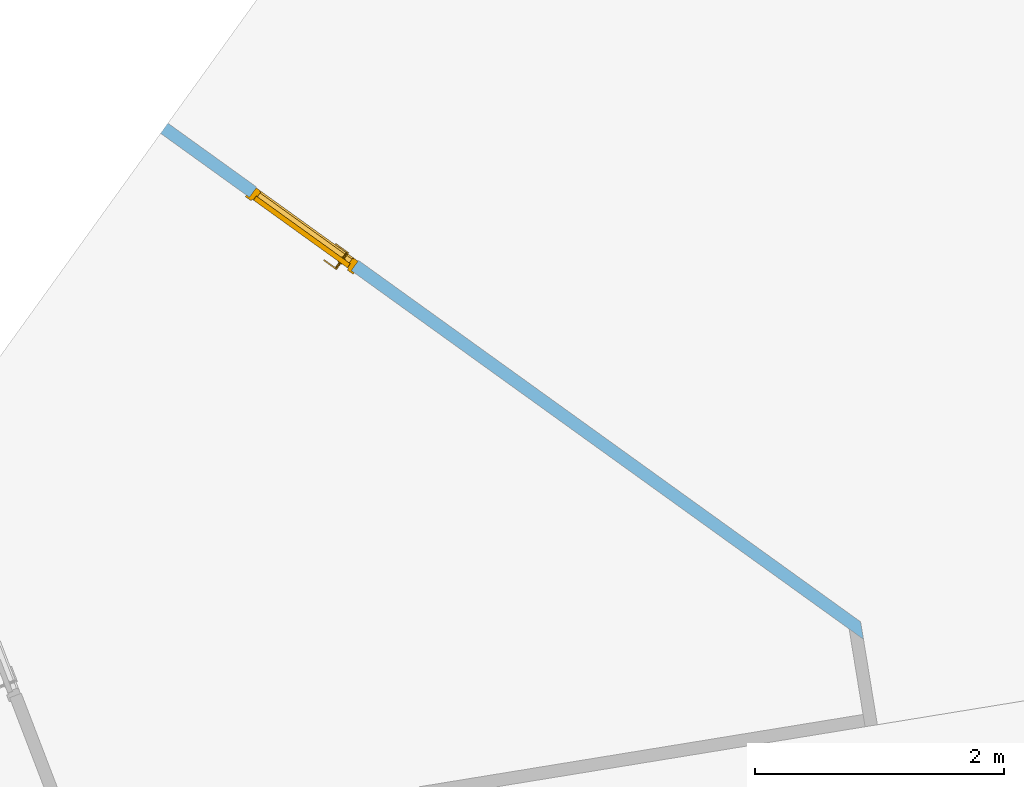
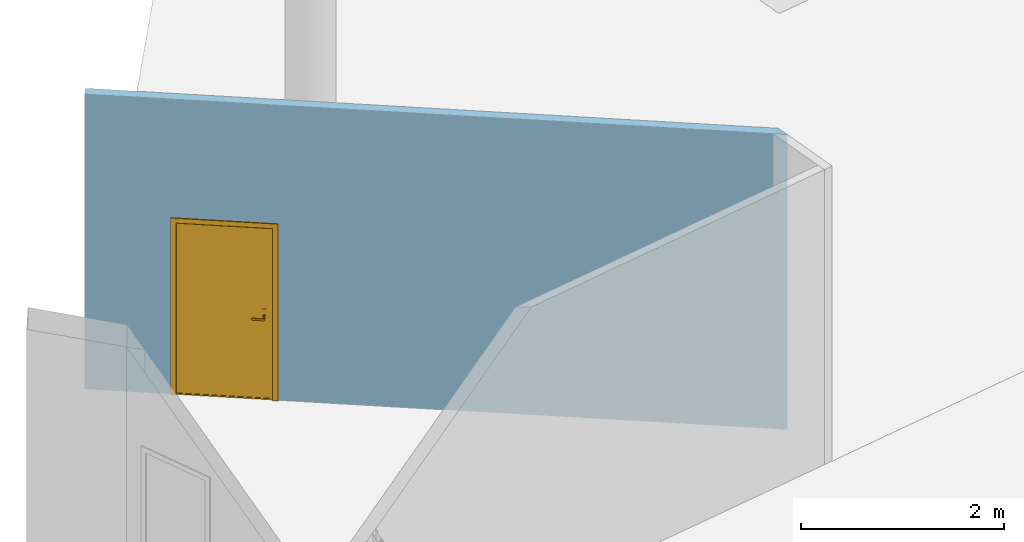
# One storey, part 7 of 10: 1 door, 1 opening, plus 1 element that does not belong to this part.
"""IFC2X3 building model written with IfcOpenShell, lengths in millimetres."""

from ifc_helpers import new_model, entity, si_unit, converted_unit, derived_unit, direction, frame, frame_2d, origin, origin_with_axes, place, context, subcontext, project, spatial, polyline, rectangle, outline, extrude, faceted_brep, source, transform, mapped, material, material_list, layer, layer_set, layer_usage, type_object, element, fill, save


model = new_model("IFC2X3")

# Units and contexts
model_context = context("Model", 3, precision=0.01, world=origin(), true_north=direction((6.12323399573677e-17, 1.0)))
plan_context = context("Plan", 3, precision=1e-05, world=origin_with_axes())
body_context = subcontext(model_context, "Body", "Model", "MODEL_VIEW")
ifc_project = project(units=[converted_unit("PLANEANGLEUNIT", "DEGREE", entity("IfcPositiveLengthMeasure", 0.0174532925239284), si_unit("PLANEANGLEUNIT", "RADIAN"), dimensions=[0, 0, 0, 0, 0, 0, 0]), si_unit("AREAUNIT", "SQUARE_METRE"), si_unit("LENGTHUNIT", "METRE", prefix="MILLI"), si_unit("MASSUNIT", "GRAM", prefix="KILO"), si_unit("POWERUNIT", "WATT"), si_unit("PRESSUREUNIT", "PASCAL", prefix="KILO"), si_unit("FORCEUNIT", "NEWTON", prefix="KILO"), si_unit("ELECTRICVOLTAGEUNIT", "VOLT"), si_unit("ELECTRICCURRENTUNIT", "AMPERE"), si_unit("THERMODYNAMICTEMPERATUREUNIT", "DEGREE_CELSIUS"), si_unit("TIMEUNIT", "SECOND"), si_unit("VOLUMEUNIT", "CUBIC_METRE"), derived_unit("LINEARVELOCITYUNIT", [(si_unit("LENGTHUNIT", "METRE"), 1), (si_unit("TIMEUNIT", "SECOND"), -1)]), derived_unit("VOLUMETRICFLOWRATEUNIT", [(si_unit("VOLUMEUNIT", "CUBIC_METRE"), 1), (si_unit("TIMEUNIT", "SECOND"), -1)]), derived_unit("THERMALTRANSMITTANCEUNIT", [(si_unit("POWERUNIT", "WATT"), 1), (si_unit("THERMODYNAMICTEMPERATUREUNIT", "KELVIN"), -1), (si_unit("AREAUNIT", "SQUARE_METRE"), -1)]), derived_unit("SOUNDPRESSUREUNIT", [(si_unit("PRESSUREUNIT", "PASCAL"), 1)])], contexts=[model_context, plan_context])

# Site, building, storey
site_placement = place(None, frame((-305029.896016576, -232111.759730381, 0.0), z_axis=(0.0, 0.0, 1.0), x_axis=(-0.160806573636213, 0.986985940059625, 0.0)))
site = spatial("IfcSite", under=ifc_project, at=site_placement, Name="Default", CompositionType="ELEMENT")
building_placement = place(site_placement, frame((0.0, 0.0, 0.0), z_axis=(0.0, 0.0, 1.0), x_axis=(1.0, -2.77555756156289e-17, 0.0)))
building = spatial("IfcBuilding", under=site, at=building_placement, Name="br001-a-200-1-0001", CompositionType="ELEMENT")
storey_placement = place(building_placement, frame((0.0, 0.0, 55500.0), z_axis=(0.0, 0.0, 1.0), x_axis=(1.0, -2.77555756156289e-17, 0.0)))
storey = spatial("IfcBuildingStorey", under=building, at=storey_placement, Name="H02-Nivå F-3,5 m", CompositionType="ELEMENT", Elevation=55500.0)

# Wall, opening, door
ifc_material_1 = material(Name="_NSW Standard")
ifc_layer = layer(ifc_material_1, 100.0)
ifc_layer_set = layer_set([ifc_layer], Name="Basic Wall:A242 - Standard 100")
ifc_layer_usage = layer_usage(ifc_layer_set, "AXIS2", "NEGATIVE", 50.0)
wall_type = type_object("IfcWallType", Name="Basic Wall:A242 - Standard 100", PredefinedType="STANDARD", material=ifc_layer_set)
wall_placement = place(storey_placement, frame((1183848.43470284, -677218.09601856, 0.0), z_axis=(0.0, 0.0, 1.0), x_axis=(-0.707106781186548, -0.707106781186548, 0.0)))
wall = element("IfcWallStandardCase", 1, at=wall_placement, inside=storey, type_object=wall_type, material=ifc_layer_usage, Name="Basic Wall:A242 - Standard 100", ObjectType="Basic Wall:A242 - Standard 100", context=body_context, shape_type="SweptSolid", body=[
    extrude(outline(polyline([(0.0, -50.0), (6821.65383766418, -50.0), (6963.07519390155, -50.0), (6863.07519390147, 50.0), (0.0, 50.0), (0.0, -50.0)])), origin(), (0.0, 0.0, 1.0), 3550.00000000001),
])
opening_placement = place(wall_placement, frame((1889.99999999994, 50.0000000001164, 0.0), z_axis=(0.0, 0.0, 1.0), x_axis=(1.0, 5.55111512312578e-17, 0.0)))
opening = element("IfcOpeningElement", 2, at=opening_placement, cuts=wall, Name="NSW Innvendig slagdør, enkel:ID-10M x 21M:1", ObjectType="Opening", context=body_context, shape_type="SweptSolid", body=[
    extrude(rectangle(XDim=2100.00000000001, YDim=1010.0, at=frame_2d((1050.0, 505.000000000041), x_axis=(1.0, 0.0))), frame((0.0, 0.0, 0.0), z_axis=(0.0, -1.0, 0.0), x_axis=(0.0, 0.0, 1.0)), (0.0, 0.0, 1.0), 100.0),
])
ifc_material_2 = material(Name="<Unnamed>")
ifc_material_3 = material(Name="_NSW Dør - dørblad, hvit")
ifc_material_4 = material(Name="_NSW Dør - terskel, tre")
ifc_material_5 = material(Name="_NSW Dør - listverk, hvit")
ifc_material_list = material_list([ifc_material_2, ifc_material_3, ifc_material_4, ifc_material_5])
door_style = type_object("IfcDoorStyle", Name="NSW Innvendig slagdør, enkel:ID-10M x 21M", ConstructionType="NOTDEFINED", OperationType="NOTDEFINED", ParameterTakesPrecedence=False, Sizeable=False, material=ifc_material_list)
shared_shape = source(origin(), body_context, "Body", "Brep", [
    faceted_brep([(-122.179491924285, 55.0, 1065.50000000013), (-120.181483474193, 55.0, 1070.32361909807), (-119.499999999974, 55.0, 1075.50000000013), (-120.181483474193, 55.0, 1080.67638090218), (-122.179491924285, 55.0, 1085.50000000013), (-125.357864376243, 55.0, 1089.64213562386), (-129.499999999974, 55.0, 1092.82050807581), (-134.323619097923, 55.0, 1094.81851652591), (-139.499999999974, 55.0, 1095.50000000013), (-144.676380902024, 55.0, 1094.81851652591), (-149.499999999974, 55.0, 1092.82050807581), (-153.642135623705, 55.0, 1089.64213562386), (-156.820508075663, 55.0, 1085.50000000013), (-158.818516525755, 55.0, 1080.67638090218), (-159.499999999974, 55.0, 1075.50000000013), (-158.818516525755, 55.0, 1070.32361909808), (-156.820508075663, 55.0, 1065.50000000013), (-153.642135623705, 55.0, 1061.35786437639), (-149.499999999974, 55.0, 1058.17949192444), (-144.676380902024, 55.0, 1056.18148347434), (-139.499999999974, 55.0, 1055.50000000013), (-134.323619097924, 55.0, 1056.18148347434), (-129.499999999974, 55.0, 1058.17949192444), (-125.357864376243, 55.0, 1061.35786437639), (-139.499999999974, 60.0, 1095.50000000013), (-134.323619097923, 60.0, 1094.81851652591), (-129.499999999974, 60.0, 1092.82050807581), (-125.357864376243, 60.0, 1089.64213562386), (-122.179491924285, 60.0, 1085.50000000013), (-120.181483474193, 60.0, 1080.67638090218), (-119.499999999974, 60.0, 1075.50000000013), (-120.181483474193, 60.0, 1070.32361909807), (-122.179491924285, 60.0, 1065.50000000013), (-125.357864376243, 60.0, 1061.35786437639), (-129.499999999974, 60.0, 1058.17949192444), (-134.323619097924, 60.0, 1056.18148347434), (-139.499999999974, 60.0, 1055.50000000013), (-144.676380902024, 60.0, 1056.18148347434), (-149.499999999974, 60.0, 1058.17949192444), (-153.642135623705, 60.0, 1061.35786437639), (-156.820508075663, 60.0, 1065.50000000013), (-158.818516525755, 60.0, 1070.32361909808), (-159.499999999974, 60.0, 1075.50000000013), (-158.818516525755, 60.0, 1080.67638090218), (-156.820508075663, 60.0, 1085.50000000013), (-153.642135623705, 60.0, 1089.64213562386), (-149.499999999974, 60.0, 1092.82050807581), (-144.676380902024, 60.0, 1094.81851652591)], [[[0, 1, 2, 3, 4, 5, 6, 7, 8, 9, 10, 11, 12, 13, 14, 15, 16, 17, 18, 19, 20, 21, 22, 23]], [[24, 25, 26, 27, 28, 29, 30, 31, 32, 33, 34, 35, 36, 37, 38, 39, 40, 41, 42, 43, 44, 45, 46, 47]], [[41, 15, 14, 42]], [[40, 16, 15, 41]], [[18, 17, 39, 38]], [[40, 39, 17, 16]], [[19, 18, 38, 37]], [[20, 19, 37, 36]], [[35, 21, 20, 36]], [[34, 22, 21, 35]], [[0, 23, 33, 32]], [[34, 33, 23, 22]], [[1, 0, 32, 31]], [[2, 1, 31, 30]], [[29, 3, 2, 30]], [[28, 4, 3, 29]], [[6, 5, 27, 26]], [[28, 27, 5, 4]], [[7, 6, 26, 25]], [[8, 7, 25, 24]], [[47, 9, 8, 24]], [[46, 10, 9, 47]], [[12, 11, 45, 44]], [[46, 45, 11, 10]], [[13, 12, 44, 43]], [[14, 13, 43, 42]]]),
    faceted_brep([(-139.499999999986, -5.0, 990.500000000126), (-19.4999999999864, -5.0, 990.500000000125), (-19.4999999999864, -5.0, 1010.50000000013), (-139.499999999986, -5.0, 1010.50000000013), (-142.088190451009, -5.0, 1010.15925826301), (-144.499999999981, -5.0, 1009.16025403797), (-146.571067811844, -5.0, 1007.57106781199), (-148.16025403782, -5.0, 1005.50000000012), (-149.159258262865, -5.0, 1003.08819045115), (-149.499999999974, -5.0, 1000.50000000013), (-149.159258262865, -5.0, 997.911809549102), (-148.16025403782, -5.0, 995.500000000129), (-146.571067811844, -5.0, 993.428932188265), (-144.499999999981, -5.0, 991.839745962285), (-142.088190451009, -5.0, 990.840741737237), (-136.911809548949, 5.0, 990.840741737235), (-134.499999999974, 5.0, 991.839745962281), (-132.428932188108, 5.0, 993.42893218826), (-130.83974596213, 5.0, 995.500000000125), (-129.840741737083, 5.0, 997.9118095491), (-129.499999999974, 5.0, 1000.50000000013), (-129.840741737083, 5.0, 1003.08819045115), (-130.83974596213, 5.0, 1005.50000000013), (-132.428932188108, 5.0, 1007.57106781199), (-134.499999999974, 5.0, 1009.16025403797), (-136.911809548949, 5.0, 1010.15925826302), (-139.499999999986, 5.0, 1010.50000000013), (-19.4999999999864, 5.0, 1010.50000000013), (-19.4999999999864, 5.0, 990.500000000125), (-139.499999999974, 5.0, 990.500000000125), (-139.499999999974, 55.0, 1010.50000000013), (-136.911809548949, 55.0, 1010.15925826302), (-134.499999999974, 55.0, 1009.16025403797), (-132.428932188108, 55.0, 1007.57106781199), (-130.83974596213, 55.0, 1005.50000000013), (-129.840741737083, 55.0, 1003.08819045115), (-129.499999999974, 55.0, 1000.50000000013), (-129.840741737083, 55.0, 997.9118095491), (-130.83974596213, 55.0, 995.500000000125), (-132.428932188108, 55.0, 993.42893218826), (-134.499999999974, 55.0, 991.839745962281), (-136.911809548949, 55.0, 990.840741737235), (-139.499999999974, 55.0, 990.500000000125), (-142.088190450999, 55.0, 990.840741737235), (-144.499999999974, 55.0, 991.839745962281), (-146.571067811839, 55.0, 993.42893218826), (-148.160254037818, 55.0, 995.500000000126), (-149.159258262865, 55.0, 997.9118095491), (-149.499999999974, 55.0, 1000.50000000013), (-149.159258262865, 55.0, 1003.08819045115), (-148.160254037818, 55.0, 1005.50000000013), (-146.571067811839, 55.0, 1007.57106781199), (-144.499999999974, 55.0, 1009.16025403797), (-142.088190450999, 55.0, 1010.15925826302)], [[[0, 1, 2, 3, 4, 5, 6, 7, 8, 9, 10, 11, 12, 13, 14]], [[15, 16, 17, 18, 19, 20, 21, 22, 23, 24, 25, 26, 27, 28, 29]], [[1, 0, 29, 28]], [[2, 1, 28, 27]], [[3, 2, 27, 26]], [[30, 31, 32, 33, 34, 35, 36, 37, 38, 39, 40, 41, 42, 43, 44, 45, 46, 47, 48, 49, 50, 51, 52, 53]], [[47, 10, 9, 48]], [[46, 11, 10, 47]], [[46, 45, 29]], [[29, 11, 46]], [[45, 44, 29]], [[29, 14, 13]], [[13, 12, 29]], [[29, 12, 11]], [[29, 0, 14]], [[42, 29, 43]], [[29, 44, 43]], [[41, 15, 29, 42]], [[40, 16, 15, 41]], [[18, 17, 39, 38]], [[38, 37, 19, 18]], [[40, 39, 17, 16]], [[36, 20, 19, 37]], [[35, 21, 20, 36]], [[34, 22, 21, 35]], [[24, 23, 33, 32]], [[34, 33, 23, 22]], [[25, 24, 32, 31]], [[25, 31, 30, 26]], [[53, 26, 30]], [[26, 4, 3]], [[52, 26, 53]], [[26, 51, 50]], [[50, 49, 8, 7]], [[52, 51, 26]], [[48, 9, 8, 49]], [[26, 5, 4]], [[5, 26, 6]], [[7, 6, 26]], [[7, 26, 50]]]),
    faceted_brep([(-129.499999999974, 55.0, 983.179491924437), (-125.357864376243, 55.0, 986.357864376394), (-122.179491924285, 55.0, 990.500000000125), (-120.181483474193, 55.0, 995.323619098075), (-119.499999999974, 55.0, 1000.50000000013), (-120.181483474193, 55.0, 1005.67638090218), (-122.179491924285, 55.0, 1010.50000000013), (-125.357864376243, 55.0, 1014.64213562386), (-129.499999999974, 55.0, 1017.82050807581), (-134.323619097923, 55.0, 1019.81851652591), (-139.499999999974, 55.0, 1020.50000000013), (-144.676380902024, 55.0, 1019.81851652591), (-149.499999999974, 55.0, 1017.82050807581), (-153.642135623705, 55.0, 1014.64213562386), (-156.820508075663, 55.0, 1010.50000000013), (-158.818516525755, 55.0, 1005.67638090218), (-159.499999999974, 55.0, 1000.50000000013), (-158.818516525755, 55.0, 995.323619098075), (-156.820508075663, 55.0, 990.500000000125), (-153.642135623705, 55.0, 986.357864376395), (-149.499999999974, 55.0, 983.179491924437), (-144.676380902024, 55.0, 981.181483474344), (-139.499999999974, 55.0, 980.500000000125), (-134.323619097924, 55.0, 981.181483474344), (-139.499999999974, 60.0, 1020.50000000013), (-134.323619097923, 60.0, 1019.81851652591), (-129.499999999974, 60.0, 1017.82050807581), (-125.357864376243, 60.0, 1014.64213562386), (-122.179491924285, 60.0, 1010.50000000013), (-120.181483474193, 60.0, 1005.67638090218), (-119.499999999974, 60.0, 1000.50000000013), (-120.181483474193, 60.0, 995.323619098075), (-122.179491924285, 60.0, 990.500000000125), (-125.357864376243, 60.0, 986.357864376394), (-129.499999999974, 60.0, 983.179491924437), (-134.323619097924, 60.0, 981.181483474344), (-139.499999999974, 60.0, 980.500000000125), (-144.676380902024, 60.0, 981.181483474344), (-149.499999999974, 60.0, 983.179491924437), (-153.642135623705, 60.0, 986.357864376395), (-156.820508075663, 60.0, 990.500000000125), (-158.818516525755, 60.0, 995.323619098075), (-159.499999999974, 60.0, 1000.50000000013), (-158.818516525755, 60.0, 1005.67638090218), (-156.820508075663, 60.0, 1010.50000000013), (-153.642135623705, 60.0, 1014.64213562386), (-149.499999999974, 60.0, 1017.82050807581), (-144.676380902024, 60.0, 1019.81851652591)], [[[0, 1, 2, 3, 4, 5, 6, 7, 8, 9, 10, 11, 12, 13, 14, 15, 16, 17, 18, 19, 20, 21, 22, 23]], [[24, 25, 26, 27, 28, 29, 30, 31, 32, 33, 34, 35, 36, 37, 38, 39, 40, 41, 42, 43, 44, 45, 46, 47]], [[41, 17, 16, 42]], [[40, 18, 17, 41]], [[20, 19, 39, 38]], [[40, 39, 19, 18]], [[21, 20, 38, 37]], [[22, 21, 37, 36]], [[35, 23, 22, 36]], [[34, 0, 23, 35]], [[2, 1, 33, 32]], [[34, 33, 1, 0]], [[3, 2, 32, 31]], [[4, 3, 31, 30]], [[29, 5, 4, 30]], [[28, 6, 5, 29]], [[8, 7, 27, 26]], [[28, 27, 7, 6]], [[9, 8, 26, 25]], [[10, 9, 25, 24]], [[47, 11, 10, 24]], [[46, 12, 11, 47]], [[14, 13, 45, 44]], [[46, 45, 13, 12]], [[15, 14, 44, 43]], [[16, 15, 43, 42]]]),
    faceted_brep([(-129.499999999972, 105.0, 1058.17949192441), (-134.323619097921, 105.0, 1056.18148347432), (-139.499999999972, 105.0, 1055.5000000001), (-144.676380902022, 105.0, 1056.18148347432), (-149.499999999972, 105.0, 1058.17949192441), (-153.642135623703, 105.0, 1061.35786437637), (-156.82050807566, 105.0, 1065.5000000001), (-158.818516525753, 105.0, 1070.32361909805), (-159.499999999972, 105.0, 1075.5000000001), (-158.818516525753, 105.0, 1080.67638090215), (-156.82050807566, 105.0, 1085.5000000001), (-153.642135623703, 105.0, 1089.64213562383), (-149.499999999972, 105.0, 1092.82050807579), (-144.676380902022, 105.0, 1094.81851652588), (-139.499999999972, 105.0, 1095.5000000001), (-134.323619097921, 105.0, 1094.81851652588), (-129.499999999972, 105.0, 1092.82050807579), (-125.357864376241, 105.0, 1089.64213562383), (-122.179491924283, 105.0, 1085.5000000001), (-120.18148347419, 105.0, 1080.67638090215), (-119.499999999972, 105.0, 1075.5000000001), (-120.18148347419, 105.0, 1070.32361909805), (-122.179491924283, 105.0, 1065.5000000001), (-125.357864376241, 105.0, 1061.35786437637), (-129.499999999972, 100.0, 1092.82050807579), (-134.323619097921, 100.0, 1094.81851652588), (-139.499999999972, 100.0, 1095.5000000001), (-144.676380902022, 100.0, 1094.81851652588), (-149.499999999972, 100.0, 1092.82050807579), (-153.642135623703, 100.0, 1089.64213562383), (-156.82050807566, 100.0, 1085.5000000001), (-158.818516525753, 100.0, 1080.67638090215), (-159.499999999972, 100.0, 1075.5000000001), (-158.818516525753, 100.0, 1070.32361909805), (-156.82050807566, 100.0, 1065.5000000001), (-153.642135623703, 100.0, 1061.35786437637), (-149.499999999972, 100.0, 1058.17949192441), (-144.676380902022, 100.0, 1056.18148347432), (-139.499999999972, 100.0, 1055.5000000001), (-134.323619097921, 100.0, 1056.18148347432), (-129.499999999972, 100.0, 1058.17949192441), (-125.357864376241, 100.0, 1061.35786437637), (-122.179491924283, 100.0, 1065.5000000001), (-120.18148347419, 100.0, 1070.32361909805), (-119.499999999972, 100.0, 1075.5000000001), (-120.18148347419, 100.0, 1080.67638090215), (-122.179491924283, 100.0, 1085.5000000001), (-125.357864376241, 100.0, 1089.64213562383)], [[[0, 1, 2, 3, 4, 5, 6, 7, 8, 9, 10, 11, 12, 13, 14, 15, 16, 17, 18, 19, 20, 21, 22, 23]], [[24, 25, 26, 27, 28, 29, 30, 31, 32, 33, 34, 35, 36, 37, 38, 39, 40, 41, 42, 43, 44, 45, 46, 47]], [[32, 8, 7, 33]], [[33, 7, 6, 34]], [[36, 35, 5, 4]], [[5, 35, 34, 6]], [[37, 36, 4, 3]], [[37, 3, 2, 38]], [[38, 2, 1, 39]], [[39, 1, 0, 40]], [[42, 41, 23, 22]], [[23, 41, 40, 0]], [[43, 42, 22, 21]], [[43, 21, 20, 44]], [[44, 20, 19, 45]], [[45, 19, 18, 46]], [[24, 47, 17, 16]], [[17, 47, 46, 18]], [[25, 24, 16, 15]], [[25, 15, 14, 26]], [[26, 14, 13, 27]], [[27, 13, 12, 28]], [[30, 29, 11, 10]], [[11, 29, 28, 12]], [[31, 30, 10, 9]], [[31, 9, 8, 32]]]),
    faceted_brep([(-146.571067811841, 165.0, 1007.57106781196), (-144.499999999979, 165.0, 1009.16025403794), (-142.088190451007, 165.0, 1010.15925826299), (-139.499999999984, 165.0, 1010.5000000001), (-19.4999999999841, 165.0, 1010.5000000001), (-19.4999999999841, 165.0, 990.500000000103), (-139.499999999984, 165.0, 990.500000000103), (-142.088190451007, 165.0, 990.840741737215), (-144.499999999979, 165.0, 991.839745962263), (-146.571067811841, 165.0, 993.428932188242), (-148.160254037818, 165.0, 995.500000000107), (-149.159258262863, 165.0, 997.91180954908), (-149.499999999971, 165.0, 1000.5000000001), (-149.159258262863, 165.0, 1003.08819045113), (-148.160254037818, 165.0, 1005.5000000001), (-19.4999999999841, 155.0, 990.500000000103), (-19.4999999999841, 155.0, 1010.5000000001), (-139.499999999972, 155.0, 1010.5000000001), (-136.911809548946, 155.0, 1010.15925826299), (-134.499999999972, 155.0, 1009.16025403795), (-132.428932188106, 155.0, 1007.57106781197), (-130.839745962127, 155.0, 1005.5000000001), (-129.840741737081, 155.0, 1003.08819045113), (-129.499999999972, 155.0, 1000.5000000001), (-129.840741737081, 155.0, 997.911809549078), (-130.839745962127, 155.0, 995.500000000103), (-132.428932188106, 155.0, 993.428932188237), (-134.499999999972, 155.0, 991.839745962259), (-136.911809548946, 155.0, 990.840741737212), (-139.499999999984, 155.0, 990.500000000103), (-134.499999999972, 105.0, 1009.16025403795), (-136.911809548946, 105.0, 1010.15925826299), (-139.499999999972, 105.0, 1010.5000000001), (-142.088190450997, 105.0, 1010.15925826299), (-144.499999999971, 105.0, 1009.16025403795), (-146.571067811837, 105.0, 1007.57106781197), (-148.160254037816, 105.0, 1005.5000000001), (-149.159258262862, 105.0, 1003.08819045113), (-149.499999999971, 105.0, 1000.5000000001), (-149.159258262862, 105.0, 997.911809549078), (-148.160254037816, 105.0, 995.500000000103), (-146.571067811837, 105.0, 993.428932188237), (-144.499999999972, 105.0, 991.839745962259), (-142.088190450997, 105.0, 990.840741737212), (-139.499999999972, 105.0, 990.500000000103), (-136.911809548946, 105.0, 990.840741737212), (-134.499999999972, 105.0, 991.839745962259), (-132.428932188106, 105.0, 993.428932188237), (-130.839745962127, 105.0, 995.500000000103), (-129.840741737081, 105.0, 997.911809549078), (-129.499999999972, 105.0, 1000.5000000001), (-129.840741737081, 105.0, 1003.08819045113), (-130.839745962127, 105.0, 1005.5000000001), (-132.428932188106, 105.0, 1007.57106781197)], [[[0, 1, 2, 3, 4, 5, 6, 7, 8, 9, 10, 11, 12, 13, 14]], [[15, 16, 17, 18, 19, 20, 21, 22, 23, 24, 25, 26, 27, 28, 29]], [[29, 6, 5, 15]], [[15, 5, 4, 16]], [[16, 4, 3, 17]], [[30, 31, 32, 33, 34, 35, 36, 37, 38, 39, 40, 41, 42, 43, 44, 45, 46, 47, 48, 49, 50, 51, 52, 53]], [[38, 12, 11, 39]], [[39, 11, 10, 40]], [[29, 41, 40]], [[40, 10, 29]], [[29, 42, 41]], [[8, 7, 29]], [[29, 9, 8]], [[10, 9, 29]], [[7, 6, 29]], [[43, 29, 44]], [[43, 42, 29]], [[44, 29, 28, 45]], [[45, 28, 27, 46]], [[48, 47, 26, 25]], [[24, 49, 48, 25]], [[26, 47, 46, 27]], [[49, 24, 23, 50]], [[50, 23, 22, 51]], [[51, 22, 21, 52]], [[30, 53, 20, 19]], [[20, 53, 52, 21]], [[31, 30, 19, 18]], [[17, 32, 31, 18]], [[32, 17, 33]], [[3, 2, 17]], [[33, 17, 34]], [[36, 35, 17]], [[13, 37, 36, 14]], [[17, 35, 34]], [[37, 13, 12, 38]], [[2, 1, 17]], [[0, 17, 1]], [[17, 0, 14]], [[36, 17, 14]]]),
    faceted_brep([(-134.323619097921, 105.0, 981.181483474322), (-139.499999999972, 105.0, 980.500000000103), (-144.676380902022, 105.0, 981.181483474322), (-149.499999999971, 105.0, 983.179491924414), (-153.642135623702, 105.0, 986.357864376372), (-156.82050807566, 105.0, 990.500000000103), (-158.818516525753, 105.0, 995.323619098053), (-159.499999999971, 105.0, 1000.5000000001), (-158.818516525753, 105.0, 1005.67638090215), (-156.82050807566, 105.0, 1010.5000000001), (-153.642135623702, 105.0, 1014.64213562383), (-149.499999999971, 105.0, 1017.82050807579), (-144.676380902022, 105.0, 1019.81851652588), (-139.499999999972, 105.0, 1020.5000000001), (-134.323619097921, 105.0, 1019.81851652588), (-129.499999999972, 105.0, 1017.82050807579), (-125.357864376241, 105.0, 1014.64213562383), (-122.179491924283, 105.0, 1010.5000000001), (-120.18148347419, 105.0, 1005.67638090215), (-119.499999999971, 105.0, 1000.5000000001), (-120.18148347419, 105.0, 995.323619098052), (-122.179491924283, 105.0, 990.500000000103), (-125.357864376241, 105.0, 986.357864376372), (-129.499999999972, 105.0, 983.179491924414), (-129.499999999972, 100.0, 1017.82050807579), (-134.323619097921, 100.0, 1019.81851652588), (-139.499999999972, 100.0, 1020.5000000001), (-144.676380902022, 100.0, 1019.81851652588), (-149.499999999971, 100.0, 1017.82050807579), (-153.642135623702, 100.0, 1014.64213562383), (-156.82050807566, 100.0, 1010.5000000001), (-158.818516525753, 100.0, 1005.67638090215), (-159.499999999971, 100.0, 1000.5000000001), (-158.818516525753, 100.0, 995.323619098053), (-156.82050807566, 100.0, 990.500000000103), (-153.642135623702, 100.0, 986.357864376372), (-149.499999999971, 100.0, 983.179491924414), (-144.676380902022, 100.0, 981.181483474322), (-139.499999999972, 100.0, 980.500000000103), (-134.323619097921, 100.0, 981.181483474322), (-129.499999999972, 100.0, 983.179491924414), (-125.357864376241, 100.0, 986.357864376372), (-122.179491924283, 100.0, 990.500000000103), (-120.18148347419, 100.0, 995.323619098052), (-119.499999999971, 100.0, 1000.5000000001), (-120.18148347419, 100.0, 1005.67638090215), (-122.179491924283, 100.0, 1010.5000000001), (-125.357864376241, 100.0, 1014.64213562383)], [[[0, 1, 2, 3, 4, 5, 6, 7, 8, 9, 10, 11, 12, 13, 14, 15, 16, 17, 18, 19, 20, 21, 22, 23]], [[24, 25, 26, 27, 28, 29, 30, 31, 32, 33, 34, 35, 36, 37, 38, 39, 40, 41, 42, 43, 44, 45, 46, 47]], [[32, 7, 6, 33]], [[33, 6, 5, 34]], [[36, 35, 4, 3]], [[4, 35, 34, 5]], [[37, 36, 3, 2]], [[37, 2, 1, 38]], [[38, 1, 0, 39]], [[39, 0, 23, 40]], [[42, 41, 22, 21]], [[22, 41, 40, 23]], [[43, 42, 21, 20]], [[43, 20, 19, 44]], [[44, 19, 18, 45]], [[45, 18, 17, 46]], [[24, 47, 16, 15]], [[16, 47, 46, 17]], [[25, 24, 15, 14]], [[25, 14, 13, 26]], [[26, 13, 12, 27]], [[27, 12, 11, 28]], [[30, 29, 10, 9]], [[10, 29, 28, 11]], [[31, 30, 9, 8]], [[31, 8, 7, 32]]]),
    faceted_brep([(719.500000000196, 60.0, 2059.0), (-209.499999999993, 60.0, 2059.0), (-209.499999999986, 60.0, 18.0), (719.500000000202, 60.0, 18.0), (719.500000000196, 100.0, 2059.0), (719.500000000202, 100.0, 18.0), (-209.499999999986, 100.0, 18.0), (-209.499999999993, 100.0, 2059.0)], [[[0, 1, 2, 3]], [[4, 5, 6, 7]], [[3, 5, 4, 0]], [[2, 6, 5, 3]], [[1, 7, 6, 2]], [[0, 4, 7, 1]]]),
    faceted_brep([(722.0, 100.0, 0.0), (760.0, 100.0, 0.0), (760.0, 7.0, 0.0), (720.0, 7.0, 0.0), (720.0, 13.5000000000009, 0.0), (710.0, 13.5000000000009, 0.0), (710.0, 57.5, 0.0), (722.0, 57.5, 0.0), (722.0, 57.5, 2062.0), (722.0, 100.0, 2062.0), (710.0, 57.5, 2050.0), (-200.0, 57.5, 2050.0), (-200.0, 57.5, 0.0), (-212.0, 57.5, 0.0), (-212.0, 57.5, 2062.0), (710.0, 13.5000000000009, 2050.0), (720.0, 13.5000000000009, 2060.0), (-210.0, 13.5000000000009, 2060.0), (-210.0, 13.5000000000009, 0.0), (-200.0, 13.5000000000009, 0.0), (-200.0, 13.5000000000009, 2050.0), (720.0, 7.0, 2060.0), (760.0, 7.0, 2100.0), (-250.0, 7.0, 2100.0), (-250.0, 7.0, 0.0), (-210.0, 7.0, 0.0), (-210.0, 7.0, 2060.0), (760.0, 100.0, 2100.0), (-212.0, 100.0, 2062.0), (-212.0, 100.0, 0.0), (-250.0, 100.0, 0.0), (-250.0, 100.0, 2100.0)], [[[0, 1, 2, 3, 4, 5, 6, 7]], [[7, 8, 9, 0]], [[6, 10, 11, 12, 13, 14, 8, 7]], [[5, 15, 10, 6]], [[4, 16, 17, 18, 19, 20, 15, 5]], [[3, 21, 16, 4]], [[2, 22, 23, 24, 25, 26, 21, 3]], [[1, 27, 22, 2]], [[0, 9, 28, 29, 30, 31, 27, 1]], [[8, 14, 28, 9]], [[15, 20, 11, 10]], [[21, 26, 17, 16]], [[27, 31, 23, 22]], [[29, 13, 12, 19, 18, 25, 24, 30]], [[14, 13, 29, 28]], [[20, 19, 12, 11]], [[26, 25, 18, 17]], [[31, 30, 24, 23]]]),
    faceted_brep([(-212.0, 100.0, 0.0), (-212.0, 100.0, 14.0), (722.0, 100.0, 14.0), (722.0, 100.0, 0.0), (-212.0, 57.5000000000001, 14.0), (-200.0, 57.499999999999, 14.0), (710.0, 57.5000000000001, 14.0), (722.0, 57.5000000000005, 14.0), (-200.0, 57.499999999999, 22.0), (710.0, 57.5000000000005, 22.0), (-200.0, 22.0, 22.0), (710.0, 22.0, 22.0), (-200.0, 13.5000000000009, 17.4666666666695), (-210.0, 13.5000000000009, 17.4666666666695), (-210.0, 7.0, 14.0), (720.0, 7.0, 14.0), (720.0, 13.5000000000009, 17.4666666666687), (710.0, 13.5000000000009, 17.4666666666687), (-210.0, 7.0, 0.0), (720.0, 7.0, 0.0), (722.0, 57.5000000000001, 0.0), (710.0, 57.5000000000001, 0.0), (710.0, 13.5000000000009, 0.0), (720.0, 13.5000000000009, 0.0), (-210.0, 13.5000000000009, 0.0), (-200.0, 13.5000000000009, 0.0), (-200.0, 57.5000000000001, 0.0), (-212.0, 57.5000000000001, 0.0)], [[[0, 1, 2, 3]], [[1, 4, 5, 6, 7, 2]], [[5, 8, 9, 6]], [[8, 10, 11, 9]], [[10, 12, 13, 14, 15, 16, 17, 11]], [[14, 18, 19, 15]], [[3, 20, 21, 22, 23, 19, 18, 24, 25, 26, 27, 0]], [[16, 15, 19, 23]], [[23, 22, 17, 16]], [[6, 9, 11, 17, 22, 21]], [[21, 20, 7, 6]], [[20, 3, 2, 7]], [[4, 1, 0, 27]], [[27, 26, 5, 4]], [[26, 25, 12, 10, 8, 5]], [[25, 24, 13, 12]], [[24, 18, 14, 13]]]),
    faceted_brep([(731.500000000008, 100.0, 0.0), (731.500000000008, 115.0, 0.0), (788.500000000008, 115.0, 0.0), (788.500000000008, 100.0, 0.0), (788.500000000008, 100.0, 2128.50000000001), (-278.499999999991, 100.0, 2128.50000000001), (-278.499999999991, 100.0, 0.0), (-221.499999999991, 100.0, 0.0), (-221.499999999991, 100.0, 2071.50000000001), (731.500000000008, 100.0, 2071.50000000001), (788.500000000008, 115.0, 2128.50000000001), (731.500000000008, 115.0, 2071.50000000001), (-221.499999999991, 115.0, 2071.50000000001), (-221.499999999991, 115.0, 0.0), (-278.499999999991, 115.0, 0.0), (-278.499999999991, 115.0, 2128.50000000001)], [[[0, 1, 2, 3]], [[3, 4, 5, 6, 7, 8, 9, 0]], [[2, 10, 4, 3]], [[1, 11, 12, 13, 14, 15, 10, 2]], [[0, 9, 11, 1]], [[10, 15, 5, 4]], [[9, 8, 12, 11]], [[7, 6, 14, 13]], [[15, 14, 6, 5]], [[8, 7, 13, 12]]]),
])
door_placement = place(opening_placement, frame((-250.0, 0.0, 0.0), z_axis=(0.0, 0.0, 1.0), x_axis=(-1.0, -5.55111512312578e-17, 0.0)))
door = element("IfcDoor", 3, at=door_placement, inside=storey, type_object=door_style, material=ifc_material_list, Name="NSW Innvendig slagdør, enkel:ID-10M x 21M", ObjectType="NSW Innvendig slagdør, enkel:ID-10M x 21M", OverallHeight=2100.00000000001, OverallWidth=1010.00000000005, context=body_context, shape_type="MappedRepresentation", body=[
    mapped(shared_shape, transform((0.0, 0.0, 0.0), scale=1.0)),
])
fill(opening, door)

save(model, "model.ifc")
